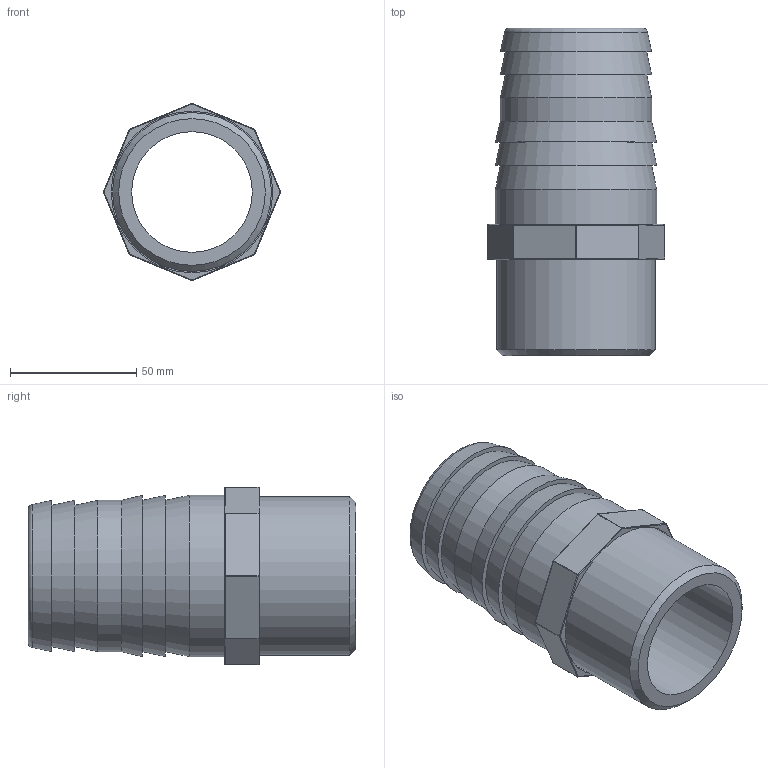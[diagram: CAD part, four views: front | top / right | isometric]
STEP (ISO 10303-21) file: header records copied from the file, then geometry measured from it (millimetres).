
FILE_DESCRIPTION(/* description */ ('PVC portagomma metrico incollaggio'),/* implementation_level */ '2;1');
FILE_NAME(/* name */ 'C:\Users\POLYPIPE\Desktop\DATASET INVENTOR\LIBRERIA EFFAST\RACCORDI 3DxWEB\RDR\3D_RDRPGD\3D_RDRPGD0630.stp',/* time_stamp */ '2018-01-19T15:23:24+01:00',/* author */ ('POLYPIPE'),/* organization */ ('Polypipe Italia'),/* preprocessor_version */ 'ST-DEVELOPER v16.1',/* originating_system */ 'Autodesk Inventor 2016',/* authorisation */ '');
FILE_SCHEMA (('CONFIG_CONTROL_DESIGN'));
Length unit declared in the file: millimetre
Products named in the file (1): 3D_RDRPGD0630
Bounding box: 70.31 x 130 x 70.31 mm (x, y, z)
Volume: 157263 mm3; surface area: 54523.1 mm2
Topology: 2 solids, 2 shells, 70 faces, 130 edges, 69 vertices
Faces by surface type: cylinder 29, plane 17, sphere 16, cone 7, torus 1
Full cylindrical faces by diameter (mm): 47.9 x1, 60 x1, 63 x1, 64 x2
Entity records: 1654 total; most frequent: DIRECTION 326, CARTESIAN_POINT 255, ORIENTED_EDGE 234, AXIS2_PLACEMENT_3D 139, EDGE_CURVE 116, EDGE_LOOP 92, FACE_OUTER_BOUND 70, ADVANCED_FACE 70
